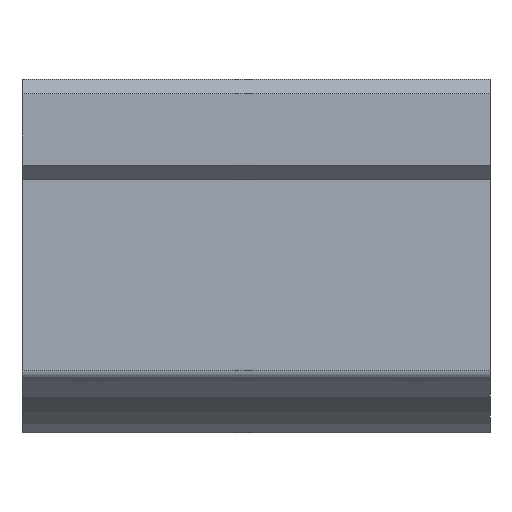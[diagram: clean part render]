
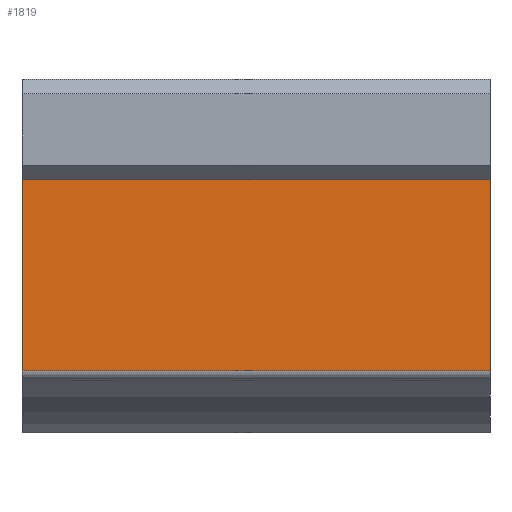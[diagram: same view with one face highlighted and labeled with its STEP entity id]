
A CAD part, front view. The second image highlights one B-rep face of the part: STEP entity #1819.
In plain terms, the highlighted planar face has unit normal (0, -1, 0).
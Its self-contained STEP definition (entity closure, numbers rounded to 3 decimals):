
#1543=CARTESIAN_POINT('',(49.0,-23.5,8.5));
#1544=VERTEX_POINT('',#1543);
#1551=CARTESIAN_POINT('',(49.0,-23.5,-11.5));
#1552=VERTEX_POINT('',#1551);
#1553=CARTESIAN_POINT('',(49.0,-23.5,-11.5));
#1554=DIRECTION('',(0.0,0.0,1.0));
#1555=VECTOR('',#1554,20.);
#1556=LINE('',#1553,#1555);
#1557=EDGE_CURVE('',#1552,#1544,#1556,.T.);
#1621=CARTESIAN_POINT('',(0.0,-23.5,-11.5));
#1622=VERTEX_POINT('',#1621);
#1623=CARTESIAN_POINT('',(49.0,-23.5,-11.5));
#1624=DIRECTION('',(-1.0,0.0,0.0));
#1625=VECTOR('',#1624,49.0);
#1626=LINE('',#1623,#1625);
#1627=EDGE_CURVE('',#1552,#1622,#1626,.T.);
#1687=CARTESIAN_POINT('',(0.0,-23.5,8.5));
#1688=VERTEX_POINT('',#1687);
#1689=CARTESIAN_POINT('',(0.0,-23.5,8.5));
#1690=DIRECTION('',(0.0,0.0,-1.0));
#1691=VECTOR('',#1690,20.);
#1692=LINE('',#1689,#1691);
#1693=EDGE_CURVE('',#1688,#1622,#1692,.T.);
#1803=CARTESIAN_POINT('',(0.0,-23.5,-12.5));
#1804=DIRECTION('',(0.0,-1.0,0.0));
#1805=DIRECTION('',(0.0,0.0,-1.0));
#1806=AXIS2_PLACEMENT_3D('',#1803,#1804,#1805);
#1807=PLANE('',#1806);
#1808=ORIENTED_EDGE('',*,*,#1627,.F.);
#1809=ORIENTED_EDGE('',*,*,#1557,.T.);
#1810=CARTESIAN_POINT('',(0.0,-23.5,8.5));
#1811=DIRECTION('',(1.0,0.0,0.0));
#1812=VECTOR('',#1811,49.0);
#1813=LINE('',#1810,#1812);
#1814=EDGE_CURVE('',#1688,#1544,#1813,.T.);
#1815=ORIENTED_EDGE('',*,*,#1814,.F.);
#1816=ORIENTED_EDGE('',*,*,#1693,.T.);
#1817=EDGE_LOOP('',(#1808,#1809,#1815,#1816));
#1818=FACE_OUTER_BOUND('',#1817,.T.);
#1819=ADVANCED_FACE('',(#1818),#1807,.T.);
